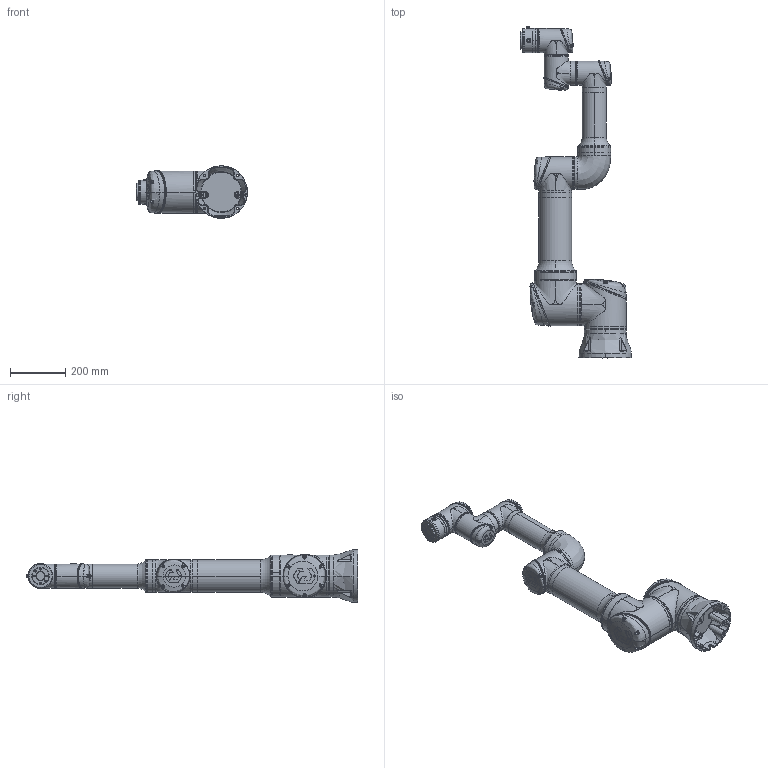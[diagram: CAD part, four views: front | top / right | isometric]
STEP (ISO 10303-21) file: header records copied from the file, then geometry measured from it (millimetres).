
FILE_DESCRIPTION (( 'STEP AP203' ), '1' );
FILE_NAME ('CS_掛极CS618F_V1.1.STEP', '2025-03-18T03:19:19', ( '' ), ( '' ), 'SwSTEP 2.0', 'SolidWorks 2017', '' );
FILE_SCHEMA (( 'CONFIG_CONTROL_DESIGN' ));
Length unit declared in the file: millimetre
Products named in the file (8): CS616-Link5; CS616-Link2; CS616-Link4; CS612-Link1; CS616-Base; CS618F藺傷; CS616-Link3; CS_掛极CS618F_V1.1
Assembly tree (7 placements, depth 2):
  CS_掛极CS618F_V1.1
    CS616-Base
    CS612-Link1
    CS616-Link2
    CS616-Link3
    CS616-Link4
    CS616-Link5
    CS618F藺傷
Bounding box: 401.18 x 1199.5 x 189.7 mm (x, y, z)
Volume: 19600689.6 mm3; surface area: 1318708.2 mm2
Topology: 88 solids, 99 shells, 5451 faces, 12960 edges, 7710 vertices
Faces by surface type: bspline 2020, plane 1408, cylinder 1097, cone 395, torus 326, sphere 205
Entity records: 444563 total; most frequent: CARTESIAN_POINT 335542, ORIENTED_EDGE 25330, DIRECTION 18799, EDGE_CURVE 12665, AXIS2_PLACEMENT_3D 7940, VERTEX_POINT 7664, EDGE_LOOP 5799, FACE_OUTER_BOUND 5451
